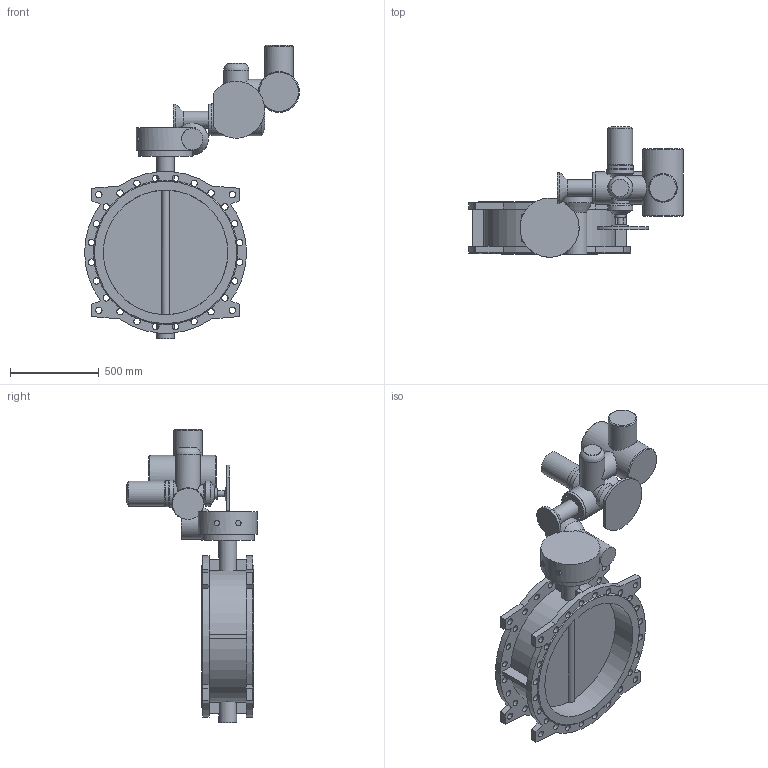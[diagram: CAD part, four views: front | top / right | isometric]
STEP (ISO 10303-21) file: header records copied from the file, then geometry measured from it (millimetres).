
FILE_DESCRIPTION(('STEP AP203'), '1');
FILE_NAME('Çàòâîð 021F.Y DN700 +ðåäóêòîð+ÌÒ903.À30-34 ñ ÁÓ', '', ('UNSPECIFIED'), ('UNSPECIFIED'), 'ASCON STEP Converter 1.6', 'ASCON Math Kernel', '');
FILE_SCHEMA(('CONFIG_CONTROL_DESIGN'));
Length unit declared in the file: millimetre
Bounding box: 1207 x 732.73 x 1649 mm (x, y, z)
Volume: 97790226.5 mm3; surface area: 5135060.9 mm2
Topology: 1 solids, 1 shells, 239 faces, 726 edges, 479 vertices
Faces by surface type: cylinder 124, plane 99, cone 15, torus 1
Full cylindrical faces by diameter (mm): 14 x12, 18 x12, 30 x2, 32 x1, 36 x56, 60 x1, 95 x1, 100 x3, 120 x1, 140 x4, 147 x1, 151 x1, 160 x1, 175 x1, 180 x2, 230 x1, 300 x1, 700 x2
Entity records: 16192 total; most frequent: CARTESIAN_POINT 7976, DIRECTION 1254, ORIENTED_EDGE 1218, EDGE_CURVE 609, AXIS2_PLACEMENT_3D 549, VERTEX_POINT 479, EDGE_LOOP 460, CIRCLE 309
